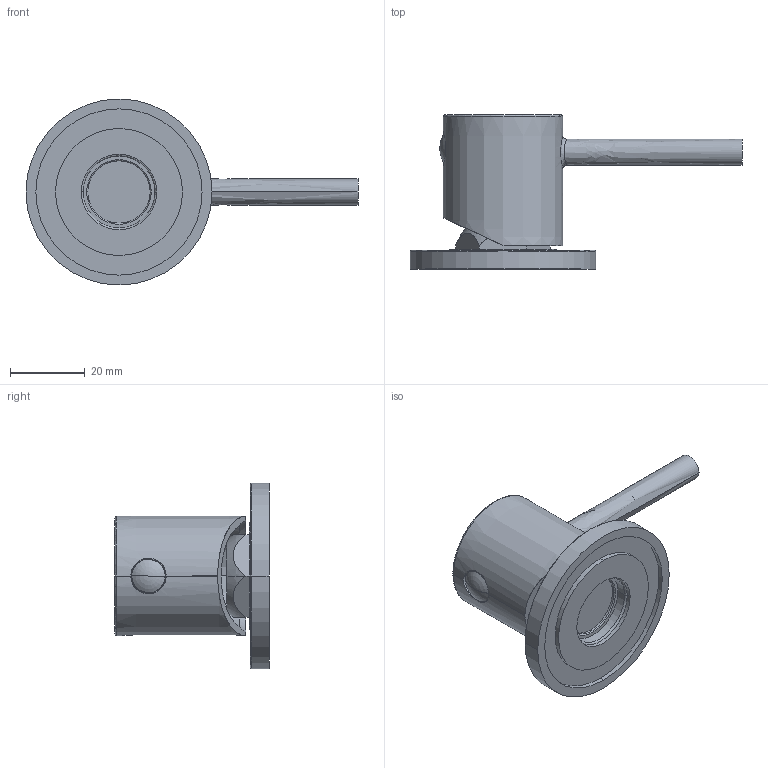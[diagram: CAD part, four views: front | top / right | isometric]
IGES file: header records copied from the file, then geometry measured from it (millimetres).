
Start section:  PTC IGES file: 12031.igs
Global section: file name: 12031.igs; native system: Creo Parametric by PTC Inc.; preprocessor: 2022014; author: carloff; organization: Unknown; date: 20250218.105157; units: millimetre
Bounding box: 88.9 x 41.3 x 49.8 mm (x, y, z)
Surface area: 15004.9 mm2 (no closed solid volume)
Topology: 0 solids, 0 shells, 95 faces, 444 edges, 442 vertices
Faces by surface type: revolution 53, bspline 42
